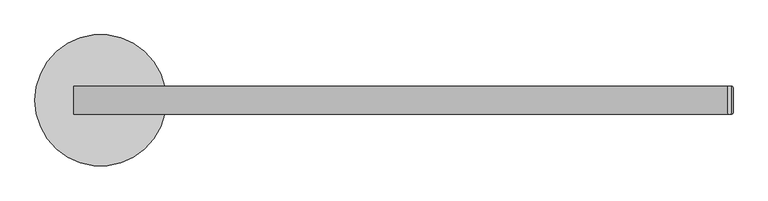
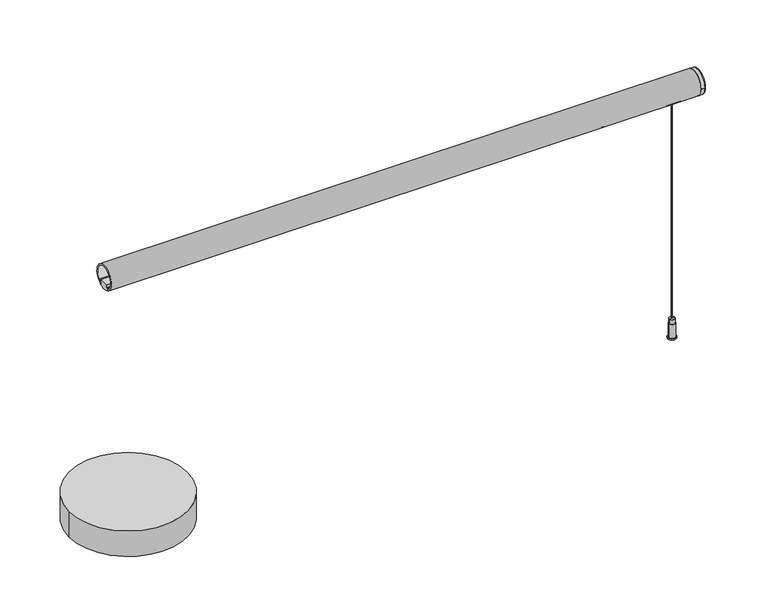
"""IFC4 building model written with IfcOpenShell, lengths in millimetres: light fixture geometry, ARTEMIDE-AoL-StandAlone-Linear_Suspended : StandALone_Suspended_Linear-1200mm 3484lm 3000K."""

from ifc_helpers import new_model, si_unit, point, frame, frame_2d, origin, origin_with_axes, place, context, project, spatial, polyline, circle_curve, ellipse_curve, trimmed, segment, composite_curve, outline, extrude, source, transform, mapped, element, save
from ifc_brep_helpers import plane_surface, cylinder_surface, revolved_surface, advanced_brep


def light_fixture_2ebe0bea(model_context):
    return source(origin(), model_context, "Body", "SolidModel", [
        advanced_brep(
        [(1135.0, 0.0, 41.0209548), (1137.0, 0.0, 41.0209548), (1141.4902255, 0.0, 41.0209548), (1130.5097745, 0.0, 41.0209548), (1135.0, 0.0, 0.0), (1137.0, 0.0, 0.0), (1127.4476301, 0.0, 0.0), (1144.5523699, 0.0, 0.0), (1127.4476301, 0.0, 2.0209548), (1144.5523699, 0.0, 2.0209548), (1129.4476301, 0.0, 2.0209548), (1142.5523699, 0.0, 2.0209548), (1129.4476301, 0.0, 30.9721976), (1142.5523699, 0.0, 30.9721976), (1130.5097745, 0.0, 30.9721976), (1141.4902255, 0.0, 30.9721976)],
        [
            (0, 1, circle_curve(frame((1136.0, 0.0, 41.0209548), z_axis=(0.0, 0.0, -1.0), x_axis=(1.0, 0.0, 0.0)), 1.0)),
            (1, 2),
            (2, 3, circle_curve(frame((1136.0, 0.0, 41.0209548), z_axis=(0.0, 0.0, 1.0), x_axis=(1.0, 0.0, 0.0)), 5.4902255)),
            (3, 0),
            (1, 0, circle_curve(frame((1136.0, 0.0, 41.0209548), z_axis=(0.0, 0.0, -1.0), x_axis=(1.0, 0.0, 0.0)), 1.0)),
            (3, 2, circle_curve(frame((1136.0, 0.0, 41.0209548), z_axis=(0.0, 0.0, 1.0), x_axis=(1.0, 0.0, 0.0)), 5.4902255)),
            (4, 5, circle_curve(frame((1136.0, 0.0, 0.0), z_axis=(0.0, 0.0, -1.0), x_axis=(1.0, 0.0, 0.0)), 1.0)),
            (5, 1),
            (0, 4),
            (5, 4, circle_curve(frame((1136.0, 0.0, 0.0), z_axis=(0.0, 0.0, -1.0), x_axis=(1.0, 0.0, 0.0)), 1.0)),
            (6, 7, circle_curve(frame((1136.0, 0.0, 0.0), z_axis=(0.0, 0.0, -1.0), x_axis=(1.0, 0.0, 0.0)), 8.5523699)),
            (7, 5),
            (4, 6),
            (7, 6, circle_curve(frame((1136.0, 0.0, 0.0), z_axis=(0.0, 0.0, -1.0), x_axis=(1.0, 0.0, 0.0)), 8.5523699)),
            (8, 9, circle_curve(frame((1136.0, 0.0, 2.0209548), z_axis=(0.0, 0.0, -1.0), x_axis=(1.0, 0.0, 0.0)), 8.5523699)),
            (9, 7),
            (6, 8),
            (9, 8, circle_curve(frame((1136.0, 0.0, 2.0209548), z_axis=(0.0, 0.0, -1.0), x_axis=(1.0, 0.0, 0.0)), 8.5523699)),
            (10, 11, circle_curve(frame((1136.0, 0.0, 2.0209548), z_axis=(0.0, 0.0, -1.0), x_axis=(1.0, 0.0, 0.0)), 6.5523699)),
            (11, 9),
            (8, 10),
            (11, 10, circle_curve(frame((1136.0, 0.0, 2.0209548), z_axis=(0.0, 0.0, -1.0), x_axis=(1.0, 0.0, 0.0)), 6.5523699)),
            (12, 13, circle_curve(frame((1136.0, 0.0, 30.9721976), z_axis=(0.0, 0.0, -1.0), x_axis=(1.0, 0.0, 0.0)), 6.5523699)),
            (13, 11),
            (10, 12),
            (13, 12, circle_curve(frame((1136.0, 0.0, 30.9721976), z_axis=(0.0, 0.0, -1.0), x_axis=(1.0, 0.0, 0.0)), 6.5523699)),
            (14, 15, circle_curve(frame((1136.0, 0.0, 30.9721976), z_axis=(0.0, 0.0, -1.0), x_axis=(1.0, 0.0, 0.0)), 5.4902255)),
            (15, 13),
            (12, 14),
            (15, 14, circle_curve(frame((1136.0, 0.0, 30.9721976), z_axis=(0.0, 0.0, -1.0), x_axis=(1.0, 0.0, 0.0)), 5.4902255)),
            (2, 15),
            (14, 3),
        ],
        [
            plane_surface(frame((1136.0, 0.0, 41.0209548), z_axis=(0.0, 0.0, 1.0), x_axis=(1.0, 0.0, 0.0))),
            revolved_surface(polyline([(1137.0, 0.0, 41.02095480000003), (1137.0, 0.0, 0.0)]), (1136.0, 0.0, 391.16642), (0.0, 0.0, 1.0)),
            plane_surface(frame((1136.0, 0.0, 0.0), z_axis=(0.0, 0.0, -1.0), x_axis=(1.0, 0.0, 0.0))),
            cylinder_surface(frame((1136.0, 0.0, 391.16642), z_axis=(0.0, 0.0, 1.0), x_axis=(1.0, 0.0, 0.0)), 8.5523699),
            plane_surface(frame((1136.0, 0.0, 2.0209548), z_axis=(0.0, 0.0, 1.0), x_axis=(1.0, 0.0, 0.0))),
            cylinder_surface(frame((1136.0, 0.0, 391.16642), z_axis=(0.0, 0.0, 1.0), x_axis=(1.0, 0.0, 0.0)), 6.5523699),
            plane_surface(frame((1136.0, 0.0, 30.9721976), z_axis=(0.0, 0.0, 1.0), x_axis=(1.0, 0.0, 0.0))),
            cylinder_surface(frame((1136.0, 0.0, 391.16642), z_axis=(0.0, 0.0, 1.0), x_axis=(1.0, 0.0, 0.0)), 5.4902255),
        ],
        [
            (0, [[1, 2, 3, 4]]),
            (0, [[5, -4, 6, -2]]),
            (1, [[7, 8, -1, 9]]),
            (1, [[10, -9, -5, -8]]),
            (2, [[11, 12, -7, 13]]),
            (2, [[14, -13, -10, -12]]),
            (3, [[15, 16, -11, 17]]),
            (3, [[18, -17, -14, -16]]),
            (4, [[19, 20, -15, 21]]),
            (4, [[22, -21, -18, -20]]),
            (5, [[23, 24, -19, 25]]),
            (5, [[26, -25, -22, -24]]),
            (6, [[27, 28, -23, 29]]),
            (6, [[30, -29, -26, -28]]),
            (7, [[-3, 31, -27, 32]]),
            (7, [[-6, -32, -30, -31]]),
        ],
    ),
        extrude(outline(composite_curve([segment(trimmed(circle_curve(frame_2d((1136.0, 0.0)), 0.8), [point((1135.2, 0.0))], [point((1136.8, 0.0))], False, "CARTESIAN"), True, "CONTINUOUS"), segment(trimmed(circle_curve(frame_2d((1136.0, 0.0)), 0.8), [point((1136.8, 0.0))], [point((1135.2, 0.0))], False, "CARTESIAN"), True, "CONTINUOUS")], self_intersect=False)), origin_with_axes(), (0.0, 0.0, 1.0), 500.0),
        advanced_brep(
        [(1190.0032014, -22.0, 525.0), (1190.0032014, 22.0, 525.0), (1180.0032014, 25.0, 525.0), (1180.0032014, -25.0, 525.0), (1187.0032014, -25.0, 525.0), (1187.0032014, 25.0, 525.0)],
        [
            (0, 1, circle_curve(frame((1190.0032014, 0.0, 525.0), z_axis=(1.0, 0.0, 0.0), x_axis=(0.0, 1.0, 0.0)), 22.0)),
            (1, 0, circle_curve(frame((1190.0032014, 0.0, 525.0), z_axis=(1.0, 0.0, 0.0), x_axis=(0.0, -1.0, 0.0)), 22.0)),
            (2, 3, circle_curve(frame((1180.0032014, 0.0, 525.0), z_axis=(-1.0, 0.0, 0.0), x_axis=(0.0, 0.0, 1.0)), 25.0)),
            (3, 2, circle_curve(frame((1180.0032014, 0.0, 525.0), z_axis=(-1.0, 0.0, 0.0), x_axis=(0.0, 0.0, 1.0)), 25.0)),
            (3, 4),
            (4, 5, circle_curve(frame((1187.0032014, 0.0, 525.0), z_axis=(-1.0, 0.0, 0.0), x_axis=(0.0, 0.0, 1.0)), 25.0)),
            (5, 2),
            (5, 4, circle_curve(frame((1187.0032014, 0.0, 525.0), z_axis=(-1.0, 0.0, 0.0), x_axis=(0.0, 0.0, 1.0)), 25.0)),
            (0, 4, circle_curve(frame((1187.0032014, -22.0, 525.0), z_axis=(0.0, 0.0, -1.0), x_axis=(0.0, -1.0, 0.0)), 3.0)),
            (5, 1, circle_curve(frame((1187.0032014, 22.0, 525.0), z_axis=(0.0, 0.0, -1.0), x_axis=(0.0, 1.0, 0.0)), 3.0)),
        ],
        [
            plane_surface(frame((1190.0032014, 0.0, 550.0), z_axis=(1.0, 0.0, 0.0), x_axis=(0.0, -1.0, 0.0))),
            plane_surface(frame((1180.0032014, 0.0, 550.0), z_axis=(-1.0, 0.0, 0.0), x_axis=(0.0, 1.0, 0.0))),
            cylinder_surface(frame((1180.0032014, 0.0, 525.0), z_axis=(1.0, 0.0, 0.0), x_axis=(0.0, 0.0, 1.0)), 25.0),
            revolved_surface(trimmed(ellipse_curve(frame((1187.0032014, 22.0, 525.0), z_axis=(0.0, 0.0, 1.0), x_axis=(0.0, 1.0, 0.0)), 3.0, 3.0), [point((1190.0032014, 22.0, 525.0))], [point((1187.0032014, 25.0, 525.0))], True, "CARTESIAN"), (1190.0032014, 0.0, 525.0), (-1.0, 0.0, 0.0)),
            revolved_surface(trimmed(ellipse_curve(frame((1187.0032014, -22.0, 525.0), z_axis=(0.0, 0.0, -1.0), x_axis=(0.0, -1.0, 0.0)), 3.0, 3.0), [point((1190.0032014, -22.0, 525.0))], [point((1187.0032014, -25.0, 525.0))], True, "CARTESIAN"), (1190.0032014, 0.0, 525.0), (-1.0, 0.0, 0.0)),
        ],
        [
            (0, [[1, 2]]),
            (1, [[3, 4]]),
            (2, [[-4, 5, 6, 7]]),
            (2, [[-3, -7, 8, -5]]),
            (3, [[9, -8, 10, -1]]),
            (4, [[-9, -2, -10, -6]]),
        ],
    ),
        extrude(outline(composite_curve([segment(trimmed(circle_curve(frame_2d((0.0, 525.0)), 25.0), [point((-11.75, 502.9333396))], [point((11.75, 502.9333396))], False, "CARTESIAN"), True, "CONTINUOUS"), segment(polyline([(11.75, 502.9333396), (11.75, 507.259212), (13.667754, 507.259212), (13.667754, 505.8288843), (15.617754, 507.2440748), (15.617754, 509.244074), (12.667754, 509.244074), (12.667754, 510.744074), (17.2779794, 510.744074)]), True, "CONTINUOUS"), segment(trimmed(circle_curve(frame_2d((0.0, 525.0)), 22.4), [point((17.2779794, 510.744074))], [point((-17.2779794, 510.744074))], True, "CARTESIAN"), True, "CONTINUOUS"), segment(polyline([(-17.2779794, 510.744074), (-12.667754, 510.744074), (-12.667754, 509.244074), (-15.617754, 509.244074), (-15.617754, 507.2440748), (-13.667754, 505.8288843), (-13.667754, 507.259212), (-11.75, 507.259212), (-11.75, 502.9333396)]), True, "CONTINUOUS")], self_intersect=False)), frame((0.0032014, 0.0, 0.0), z_axis=(1.0, 0.0, 0.0), x_axis=(0.0, 1.0, 0.0)), (0.0, 0.0, 1.0), 1180.0),
        extrude(outline(composite_curve([segment(trimmed(circle_curve(frame_2d((0.0, 525.0)), 25.0), [point((11.75, 502.9333396))], [point((-11.75, 502.9333396))], False, "CARTESIAN"), True, "CONTINUOUS"), segment(polyline([(-11.75, 502.9333396), (-11.75, 507.259212), (-15.304087, 507.259212), (-15.304087, 508.785971), (-9.5062575, 508.785971), (-9.5062575, 514.4273482), (9.5062575, 514.4273482), (9.5062575, 508.785971), (15.304087, 508.785971), (15.304087, 507.259212), (11.75, 507.259212), (11.75, 502.9333396)]), True, "CONTINUOUS")], self_intersect=False)), frame((0.0032014, 0.0, 0.0), z_axis=(1.0, 0.0, 0.0), x_axis=(0.0, 1.0, 0.0)), (0.0, 0.0, 1.0), 1180.0),
        extrude(outline(composite_curve([segment(trimmed(circle_curve(frame_2d((48.0, 0.0)), 118.5), [point((166.5, 0.0))], [point((-70.5, 0.0))], False, "CARTESIAN"), True, "CONTINUOUS"), segment(trimmed(circle_curve(frame_2d((48.0, 0.0)), 118.5), [point((-70.5, 0.0))], [point((166.5, 0.0))], False, "CARTESIAN"), True, "CONTINUOUS")], self_intersect=False)), origin_with_axes(), (0.0, 0.0, 1.0), 54.0),
    ])


if __name__ == "__main__":
    model = new_model("IFC4")
    model_context = context("Model", 3, world=origin())
    ifc_project = project(units=[si_unit("LENGTHUNIT", "METRE", prefix="MILLI")], contexts=[model_context])
    site = spatial("IfcSite", under=ifc_project)
    building = spatial("IfcBuilding", under=site)
    placement = place(None, origin())
    light_fixture_shape = light_fixture_2ebe0bea(model_context)
    element("IfcLightFixture", 1, ObjectType="ARTEMIDE-AoL-StandAlone-Linear_Suspended : StandALone_Suspended_Linear-1200mm 3484lm 3000K", at=placement, inside=building, context=model_context, shape_type="MappedRepresentation", body=[
        mapped(light_fixture_shape, transform((0.0, 0.0, 0.0), x_axis=(1.0, 0.0, 0.0), y_axis=(0.0, 1.0, 0.0), z_axis=(0.0, 0.0, 1.0))),
    ])
    save(model, "model.ifc")
